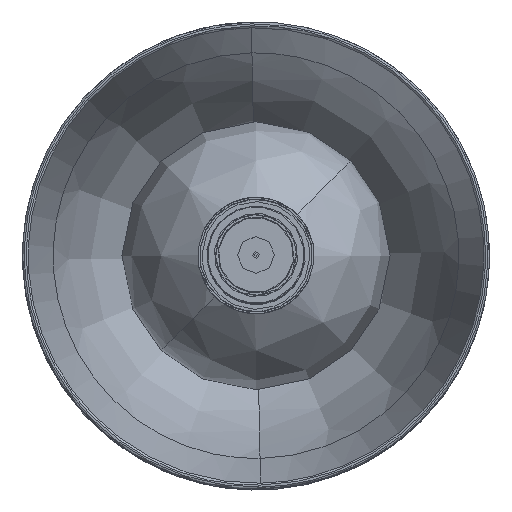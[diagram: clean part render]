
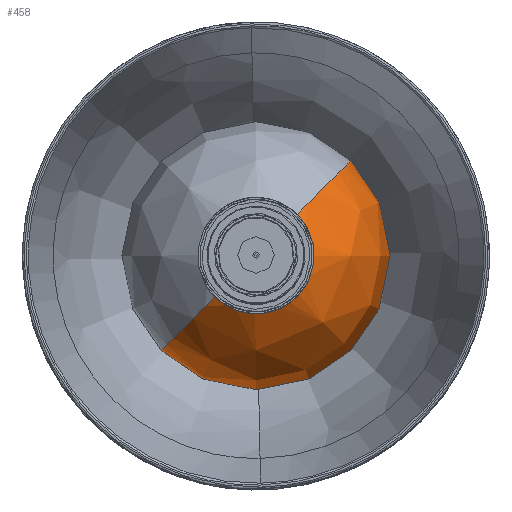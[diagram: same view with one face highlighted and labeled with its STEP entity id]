
A CAD part, top view. The second image highlights one B-rep face of the part: STEP entity #458.
In plain terms, the highlighted free-form (B-spline) face has degree [2, 2] with [5, 5] control points.
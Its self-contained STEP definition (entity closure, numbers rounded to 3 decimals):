
#458=ADVANCED_FACE('',(#764),#4256,.T.);
#764=FACE_OUTER_BOUND('',#1070,.T.);
#1070=EDGE_LOOP('',(#2367,#2368,#2369,#2370));
#2367=ORIENTED_EDGE('',*,*,#3019,.T.);
#2368=ORIENTED_EDGE('',*,*,#3018,.T.);
#2369=ORIENTED_EDGE('',*,*,#3017,.T.);
#2370=ORIENTED_EDGE('',*,*,#3033,.F.);
#3017=EDGE_CURVE('',#4102,#4101,#3677,.T.);
#3018=EDGE_CURVE('',#4100,#4102,#3678,.T.);
#3019=EDGE_CURVE('',#4099,#4100,#3679,.T.);
#3033=EDGE_CURVE('',#4099,#4101,#3691,.T.);
#3677=(
BOUNDED_CURVE()
B_SPLINE_CURVE(2,(#16467,#16468,#16469,#16470,#16471),.UNSPECIFIED.,.F.,
 .F.)
B_SPLINE_CURVE_WITH_KNOTS((3,2,3),(0.,43.609,87.217),
 .UNSPECIFIED.)
CURVE()
GEOMETRIC_REPRESENTATION_ITEM()
RATIONAL_B_SPLINE_CURVE((1.,0.707,1.,0.707,1.))
REPRESENTATION_ITEM('')
);
#3678=(
BOUNDED_CURVE()
B_SPLINE_CURVE(2,(#16472,#16473,#16474,#16475,#16476),.UNSPECIFIED.,.F.,
 .F.)
B_SPLINE_CURVE_WITH_KNOTS((3,2,3),(28.572,108.385,188.198),
 .UNSPECIFIED.)
CURVE()
GEOMETRIC_REPRESENTATION_ITEM()
RATIONAL_B_SPLINE_CURVE((1.,0.837,1.,0.837,1.))
REPRESENTATION_ITEM('')
);
#3679=(
BOUNDED_CURVE()
B_SPLINE_CURVE(2,(#16477,#16478,#16479,#16480,#16481),.UNSPECIFIED.,.F.,
 .F.)
B_SPLINE_CURVE_WITH_KNOTS((3,2,3),(87.217,130.826,174.435),
 .UNSPECIFIED.)
CURVE()
GEOMETRIC_REPRESENTATION_ITEM()
RATIONAL_B_SPLINE_CURVE((1.,0.707,1.,0.707,1.))
REPRESENTATION_ITEM('')
);
#3691=(
BOUNDED_CURVE()
B_SPLINE_CURVE(2,(#16539,#16540,#16541,#16542,#16543),.UNSPECIFIED.,.F.,
 .F.)
B_SPLINE_CURVE_WITH_KNOTS((3,2,3),(28.572,108.385,188.198),
 .UNSPECIFIED.)
CURVE()
GEOMETRIC_REPRESENTATION_ITEM()
RATIONAL_B_SPLINE_CURVE((1.,0.837,1.,0.837,1.))
REPRESENTATION_ITEM('')
);
#4099=VERTEX_POINT('',#16400);
#4100=VERTEX_POINT('',#16401);
#4101=VERTEX_POINT('',#16402);
#4102=VERTEX_POINT('',#16403);
#4256=(
BOUNDED_SURFACE()
B_SPLINE_SURFACE(2,2,((#16322,#16323,#16324,#16325,#16326),(#16327,#16328,
#16329,#16330,#16331),(#16332,#16333,#16334,#16335,#16336),(#16337,#16338,
#16339,#16340,#16341),(#16342,#16343,#16344,#16345,#16346)),
 .UNSPECIFIED.,.F.,.F.,.F.)
B_SPLINE_SURFACE_WITH_KNOTS((3,2,3),(3,2,3),(216.77,325.155,
433.54),(0.,108.385,216.77),.UNSPECIFIED.)
GEOMETRIC_REPRESENTATION_ITEM()
RATIONAL_B_SPLINE_SURFACE(((1.,0.707,1.,0.707,1.),
(0.707,0.5,0.707,0.5,0.707),(1.,0.707,
1.,0.707,1.),(0.707,0.5,0.707,0.5,0.707),
(1.,0.707,1.,0.707,1.)))
REPRESENTATION_ITEM('')
SURFACE()
);
#16322=CARTESIAN_POINT('',(0.,0.,-69.));
#16323=CARTESIAN_POINT('',(69.,0.,-69.));
#16324=CARTESIAN_POINT('',(69.,0.,0.));
#16325=CARTESIAN_POINT('',(69.,0.,69.));
#16326=CARTESIAN_POINT('',(0.,0.,69.));
#16327=CARTESIAN_POINT('',(0.,0.,-69.));
#16328=CARTESIAN_POINT('',(69.,69.,-69.));
#16329=CARTESIAN_POINT('',(69.,69.,0.));
#16330=CARTESIAN_POINT('',(69.,69.,69.));
#16331=CARTESIAN_POINT('',(0.,0.,69.));
#16332=CARTESIAN_POINT('',(0.,0.,-69.));
#16333=CARTESIAN_POINT('',(0.,69.,-69.));
#16334=CARTESIAN_POINT('',(0.,69.,0.));
#16335=CARTESIAN_POINT('',(0.,69.,69.));
#16336=CARTESIAN_POINT('',(0.,0.,69.));
#16337=CARTESIAN_POINT('',(0.,0.,-69.));
#16338=CARTESIAN_POINT('',(-69.,69.,-69.));
#16339=CARTESIAN_POINT('',(-69.,69.,0.));
#16340=CARTESIAN_POINT('',(-69.,69.,69.));
#16341=CARTESIAN_POINT('',(0.,0.,69.));
#16342=CARTESIAN_POINT('',(0.,0.,-69.));
#16343=CARTESIAN_POINT('',(-69.,0.,-69.));
#16344=CARTESIAN_POINT('',(-69.,0.,0.));
#16345=CARTESIAN_POINT('',(-69.,0.,69.));
#16346=CARTESIAN_POINT('',(0.,0.,69.));
#16400=CARTESIAN_POINT('',(27.762,0.,-63.169));
#16401=CARTESIAN_POINT('',(-27.762,0.,-63.169));
#16402=CARTESIAN_POINT('',(27.762,0.,63.169));
#16403=CARTESIAN_POINT('',(-27.762,0.,63.169));
#16467=CARTESIAN_POINT('',(-27.762,0.,63.169));
#16468=CARTESIAN_POINT('',(-27.762,27.762,63.169));
#16469=CARTESIAN_POINT('',(0.,27.762,63.169));
#16470=CARTESIAN_POINT('',(27.762,27.762,63.169));
#16471=CARTESIAN_POINT('',(27.762,0.,63.169));
#16472=CARTESIAN_POINT('',(-27.762,0.,-63.169));
#16473=CARTESIAN_POINT('',(-69.,0.,-45.045));
#16474=CARTESIAN_POINT('',(-69.,0.,0.));
#16475=CARTESIAN_POINT('',(-69.,0.,45.045));
#16476=CARTESIAN_POINT('',(-27.762,0.,63.169));
#16477=CARTESIAN_POINT('',(27.762,0.,-63.169));
#16478=CARTESIAN_POINT('',(27.762,27.762,-63.169));
#16479=CARTESIAN_POINT('',(0.,27.762,-63.169));
#16480=CARTESIAN_POINT('',(-27.762,27.762,-63.169));
#16481=CARTESIAN_POINT('',(-27.762,0.,-63.169));
#16539=CARTESIAN_POINT('',(27.762,0.,-63.169));
#16540=CARTESIAN_POINT('',(69.,0.,-45.045));
#16541=CARTESIAN_POINT('',(69.,0.,0.));
#16542=CARTESIAN_POINT('',(69.,0.,45.045));
#16543=CARTESIAN_POINT('',(27.762,0.,63.169));
